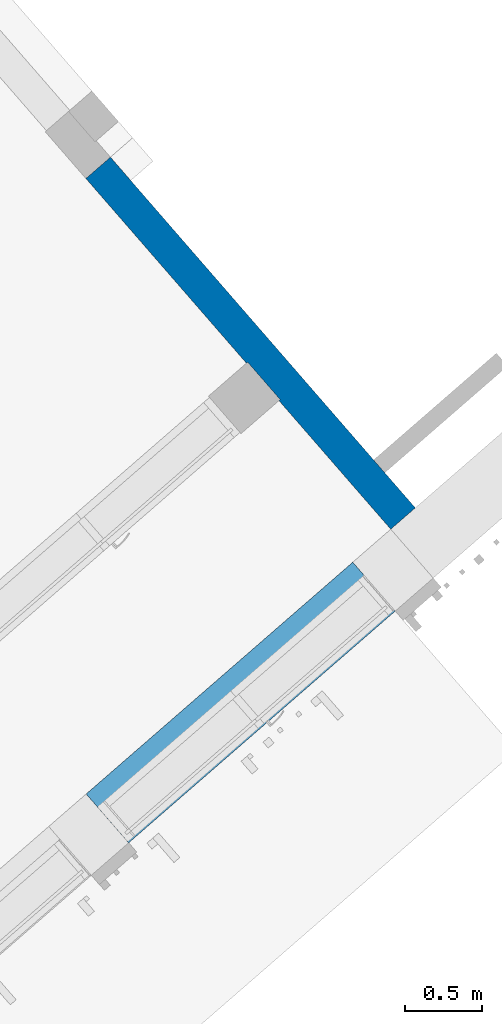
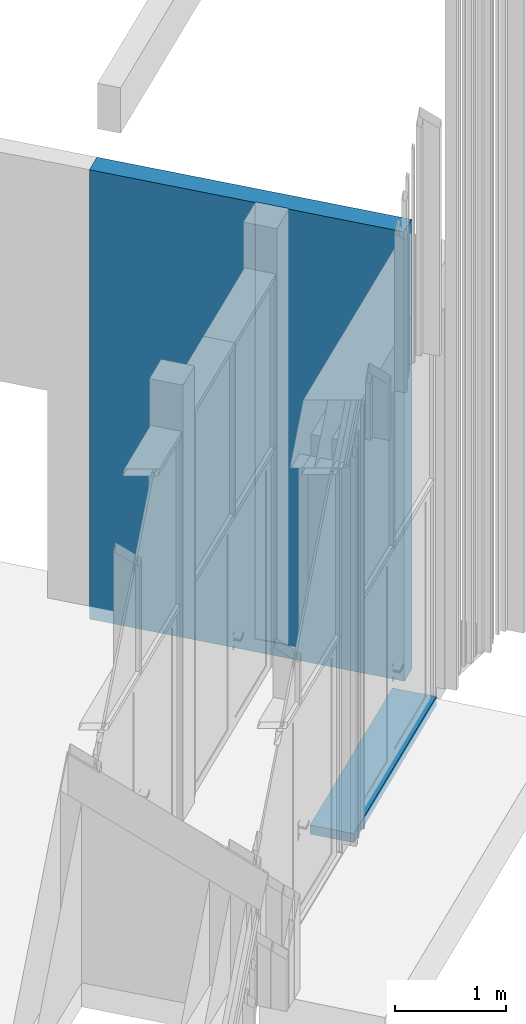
# One storey, part 208 of 390: 2 walls.
"""IFC2X3 building model written with IfcOpenShell, lengths in millimetres."""

from ifc_helpers import new_model, entity, si_unit, converted_unit, derived_unit, money_unit, direction, frame, origin_with_axes, place, context, subcontext, project, spatial, faceted_brep, material, material_list, type_object, element, save


model = new_model("IFC2X3")

# Units and contexts
model_context = context("Model", 3, precision=1e-05, world=origin_with_axes(), true_north=direction((0.0, 1.0)))
body_context = subcontext(model_context, "Body", "Model", "MODEL_VIEW")
ifc_project = project(units=[si_unit("LENGTHUNIT", "METRE", prefix="MILLI"), si_unit("AREAUNIT", "SQUARE_METRE"), si_unit("VOLUMEUNIT", "CUBIC_METRE"), converted_unit("PLANEANGLEUNIT", "DEGREE", entity("IfcPlaneAngleMeasure", 0.0174532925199), si_unit("PLANEANGLEUNIT", "RADIAN"), dimensions=[0, 0, 0, 0, 0, 0, 0]), si_unit("SOLIDANGLEUNIT", "STERADIAN"), money_unit("EUR"), converted_unit("TIMEUNIT", "Year", entity("IfcTimeMeasure", 31556926.0), si_unit("TIMEUNIT", "SECOND"), dimensions=[0, 0, 1, 0, 0, 0, 0]), si_unit("MASSUNIT", "GRAM", prefix="KILO"), si_unit("THERMODYNAMICTEMPERATUREUNIT", "DEGREE_CELSIUS"), si_unit("LUMINOUSINTENSITYUNIT", "LUMEN"), si_unit("ENERGYUNIT", "JOULE", prefix="MEGA"), derived_unit("THERMALCONDUCTANCEUNIT", [(si_unit("POWERUNIT", "WATT"), 1), (si_unit("LENGTHUNIT", "METRE"), -1), (si_unit("THERMODYNAMICTEMPERATUREUNIT", "KELVIN"), -1)]), derived_unit("SPECIFICHEATCAPACITYUNIT", [(si_unit("ENERGYUNIT", "JOULE"), 1), (si_unit("MASSUNIT", "GRAM", prefix="KILO"), -1), (si_unit("THERMODYNAMICTEMPERATUREUNIT", "KELVIN"), -1)]), derived_unit("MASSDENSITYUNIT", [(si_unit("MASSUNIT", "GRAM", prefix="KILO"), 1), (si_unit("VOLUMEUNIT", "CUBIC_METRE"), -1)])], contexts=[model_context])

# Site, building, storey
site_placement = place(None, origin_with_axes())
site = spatial("IfcSite", under=ifc_project, at=site_placement, Name="Site", CompositionType="ELEMENT")
building_placement = place(site_placement, origin_with_axes())
building = spatial("IfcBuilding", under=site, at=building_placement, Name="Building", CompositionType="ELEMENT")
storey_placement = place(building_placement, origin_with_axes())
storey = spatial("IfcBuildingStorey", under=building, at=storey_placement, Name="1 korrus", CompositionType="ELEMENT", Elevation=0.0)

# Walls
ifc_material_1 = material(Name="Raudbetoon - Konstruktsioon")
ifc_material_2 = material(Name="Krohv - Lubjakivi")
ifc_material_list_1 = material_list([ifc_material_1, ifc_material_2])
wall_type_1 = type_object("IfcWallType", Name="SS-11", PredefinedType="NOTDEFINED")
wall_1_placement = place(storey_placement, frame((146674.179882, 76799.2309178, -415.0), z_axis=(0.0, 0.0, 1.0), x_axis=(0.656059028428, -0.754709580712, 0.0)))
element("IfcWall", 1, at=wall_1_placement, inside=storey, type_object=wall_type_1, material=ifc_material_list_1, Name="SS-11", context=body_context, shape_type="Brep", body=[
    faceted_brep([(2999.99935934, -200.0, 5215.0), (2999.99935934, -200.0, 265.0), (2999.99935934, 4.09582412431e-06, 265.0), (2999.99935934, 0.0, 5215.0), (1.62160063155e-07, -200.0, 265.0), (0.0, -200.0, 5215.0), (0.0, 0.0, 265.0), (0.0, 0.0, 5215.0)], [[[0, 1, 2, 3]], [[4, 1, 0, 5]], [[2, 1, 4, 6]], [[3, 2, 6, 7]], [[0, 3, 7, 5]], [[7, 6, 4, 5]]]),
    faceted_brep([(1889.99923068, -200.000112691, 415.0), (1899.99923068, -200.0, 415.0), (1899.99923068, -200.000111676, 5215.0), (2999.99935934, -200.0, 5215.0), (2999.99935934, -200.0, 315.0), (1.62160063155e-07, -200.0, 315.0), (0.0, -200.0, 5215.0), (1579.99923068, -200.000111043, 5215.0), (1579.99923068, -200.0, 415.0), (1589.99923068, -200.000111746, 415.0), (1899.99923065, -210.0, 415.0), (1579.99923065, -210.0, 415.0), (1899.99923065, -210.0, 5215.0), (2999.99935934, -210.0, 5215.0), (2999.99935934, -210.0, 315.0), (1.70274461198e-07, -210.0, 315.0), (0.0, -210.0, 5215.0), (1579.99923065, -210.0, 5215.0)], [[[0, 1, 2, 3, 4, 5, 6, 7, 8, 9]], [[10, 1, 0, 9, 8, 11]], [[12, 2, 1, 10]], [[2, 12, 13, 3]], [[13, 14, 4, 3]], [[5, 4, 14, 15]], [[6, 5, 15, 16]], [[17, 7, 6, 16]], [[8, 7, 17, 11]], [[10, 11, 17, 16, 15, 14, 13, 12]]]),
])
ifc_material_3 = material(Name="Plaat - Sein")
ifc_material_4 = material(Name="Soojustus - Plastik Kõva")
ifc_material_list_2 = material_list([ifc_material_3, ifc_material_4, ifc_material_4, ifc_material_1, ifc_material_2])
wall_type_2 = type_object("IfcWallType", Name="VS-03", PredefinedType="NOTDEFINED")
wall_2_placement = place(storey_placement, frame((148238.591338, 74184.1058351, -100.0), z_axis=(0.0, 0.0, 1.0), x_axis=(-0.754709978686, -0.656058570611, 0.0)))
element("IfcWall", 2, at=wall_2_placement, inside=storey, type_object=wall_type_2, material=ifc_material_list_2, Name="VS-05", context=body_context, shape_type="Brep", body=[
    faceted_brep([(2280.55917274, 418.0, 0.0), (2280.55917274, 410.0, 0.0), (0.0, 410.0, 0.0), (0.0, 418.0, 0.0), (2280.55917274, 418.0, 100.0), (2280.55917274, 410.0, 100.0), (0.0, 410.0, 100.0), (0.0, 418.0, 100.0)], [[[0, 1, 2, 3]], [[0, 4, 5, 1]], [[1, 5, 6, 2]], [[3, 2, 6, 7]], [[4, 0, 3, 7]], [[5, 4, 7, 6]]]),
    faceted_brep([(2280.55917274, 410.0, 0.0), (2280.55917274, 360.0, 0.0), (0.0, 360.0, 0.0), (0.0, 410.0, 0.0), (2280.55917274, 410.0, 100.0), (2280.55917274, 360.0, 100.0), (0.0, 360.0, 100.0), (0.0, 410.0, 100.0)], [[[0, 1, 2, 3]], [[0, 4, 5, 1]], [[1, 5, 6, 2]], [[3, 2, 6, 7]], [[4, 0, 3, 7]], [[5, 4, 7, 6]]]),
    faceted_brep([(2280.55917274, 360.0, 0.0), (2280.55917274, 210.0, 0.0), (0.0, 210.0, 0.0), (0.0, 360.0, 0.0), (2280.55917274, 360.0, 100.0), (2280.55917274, 210.0, 100.0), (0.0, 210.0, 100.0), (0.0, 360.0, 100.0)], [[[0, 1, 2, 3]], [[0, 4, 5, 1]], [[1, 5, 6, 2]], [[3, 2, 6, 7]], [[4, 0, 3, 7]], [[5, 4, 7, 6]]]),
    faceted_brep([(2280.55917274, 210.0, 0.0), (2280.55917274, 9.99999999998, 0.0), (0.0, 10.0, 0.0), (0.0, 210.0, 0.0), (2280.55917274, 210.0, 100.0), (2280.55917274, 9.99999999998, 100.0), (0.0, 10.0, 100.0), (0.0, 210.0, 100.0)], [[[0, 1, 2, 3]], [[0, 4, 5, 1]], [[1, 5, 6, 2]], [[3, 2, 6, 7]], [[4, 0, 3, 7]], [[5, 4, 7, 6]]]),
    faceted_brep([(2280.55917274, 9.99999999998, 0.0), (2280.55917274, 0.0, 0.0), (0.0, 0.0, 0.0), (0.0, 10.0, 0.0), (2280.55917274, 9.99999999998, 100.0), (2280.55917274, 0.0, 100.0), (0.0, 0.0, 100.0), (0.0, 10.0, 100.0)], [[[0, 1, 2, 3]], [[0, 4, 5, 1]], [[1, 5, 6, 2]], [[3, 2, 6, 7]], [[4, 0, 3, 7]], [[5, 4, 7, 6]]]),
])

save(model, "model.ifc")
